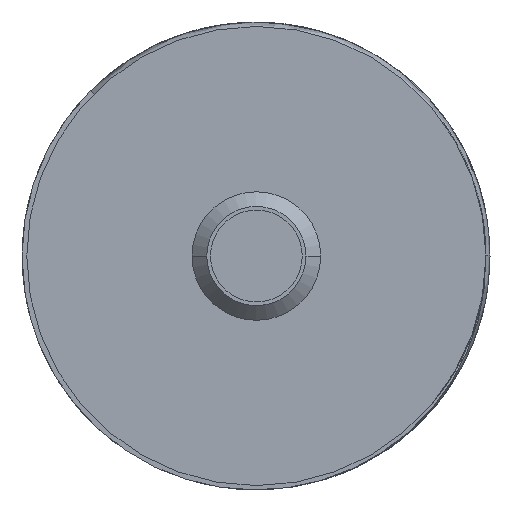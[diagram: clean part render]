
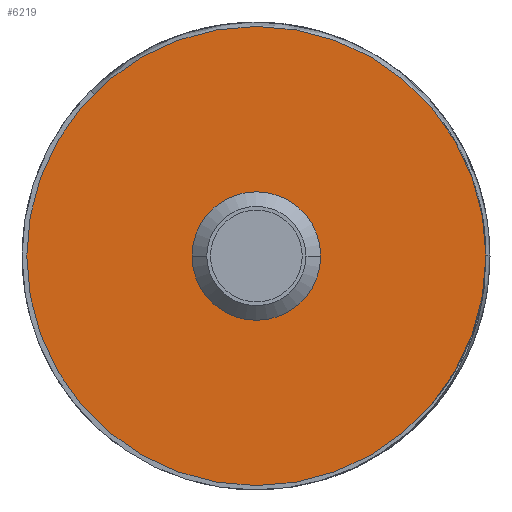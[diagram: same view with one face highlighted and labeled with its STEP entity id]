
A CAD part, front view. The second image highlights one B-rep face of the part: STEP entity #6219.
In plain terms, the highlighted planar face has unit normal (0, -1, 0).
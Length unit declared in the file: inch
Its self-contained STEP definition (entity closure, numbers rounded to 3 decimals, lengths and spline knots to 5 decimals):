
#143=CARTESIAN_POINT('',(0.,0.,0.));
#144=DIRECTION('',(0.,1.,0.));
#145=DIRECTION('',(-1.,0.,0.));
#146=AXIS2_PLACEMENT_3D('',#143,#144,#145);
#148=CARTESIAN_POINT('',(0.,0.,0.));
#149=DIRECTION('',(0.,1.,0.));
#150=DIRECTION('',(1.,0.,0.));
#151=AXIS2_PLACEMENT_3D('',#148,#149,#150);
#153=CARTESIAN_POINT('',(0.,0.,0.));
#154=DIRECTION('',(0.,-1.,0.));
#155=DIRECTION('',(-1.,0.,0.));
#156=AXIS2_PLACEMENT_3D('',#153,#154,#155);
#158=CARTESIAN_POINT('',(0.,0.,0.));
#159=DIRECTION('',(0.,-1.,0.));
#160=DIRECTION('',(1.,0.,0.));
#161=AXIS2_PLACEMENT_3D('',#158,#159,#160);
#5401=CARTESIAN_POINT('',(0.085,0.,0.));
#5402=VERTEX_POINT('',#5401);
#5403=CARTESIAN_POINT('',(-0.085,0.,0.));
#5404=VERTEX_POINT('',#5403);
#5405=CARTESIAN_POINT('',(-0.3125,0.,0.));
#5406=CARTESIAN_POINT('',(0.3125,0.,0.));
#5407=VERTEX_POINT('',#5405);
#5408=VERTEX_POINT('',#5406);
#6204=CARTESIAN_POINT('',(0.,0.,0.));
#6205=DIRECTION('',(0.,1.,0.));
#6206=DIRECTION('',(0.,0.,-1.));
#6207=AXIS2_PLACEMENT_3D('',#6204,#6205,#6206);
#6208=PLANE('',#6207);
#6210=ORIENTED_EDGE('',*,*,#6209,.T.);
#6212=ORIENTED_EDGE('',*,*,#6211,.T.);
#6213=EDGE_LOOP('',(#6210,#6212));
#6214=FACE_OUTER_BOUND('',#6213,.F.);
#6215=ORIENTED_EDGE('',*,*,#6190,.T.);
#6216=ORIENTED_EDGE('',*,*,#6172,.T.);
#6217=EDGE_LOOP('',(#6215,#6216));
#6218=FACE_BOUND('',#6217,.F.);
#147=CIRCLE('',#146,0.3125);
#152=CIRCLE('',#151,0.3125);
#157=CIRCLE('',#156,0.085);
#162=CIRCLE('',#161,0.085);
#6172=EDGE_CURVE('',#5402,#5404,#162,.T.);
#6190=EDGE_CURVE('',#5404,#5402,#157,.T.);
#6209=EDGE_CURVE('',#5407,#5408,#147,.T.);
#6211=EDGE_CURVE('',#5408,#5407,#152,.T.);
#6219=ADVANCED_FACE('',(#6214,#6218),#6208,.F.);
